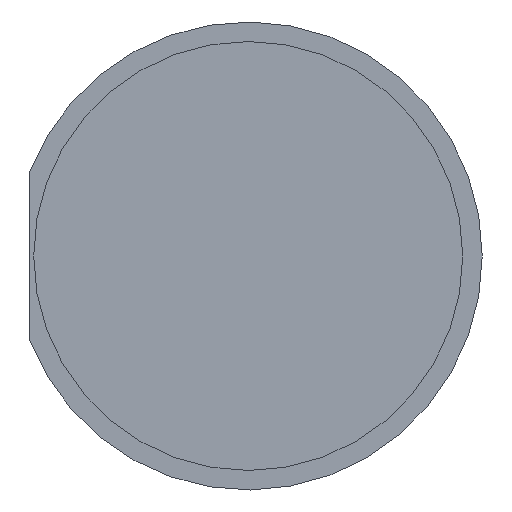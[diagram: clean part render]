
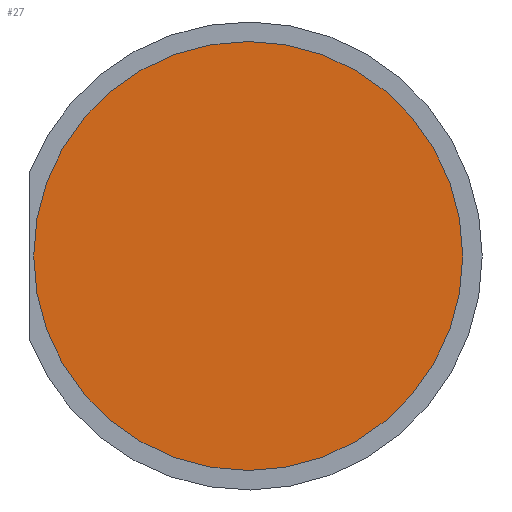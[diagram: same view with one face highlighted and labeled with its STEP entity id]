
A CAD part, front view. The second image highlights one B-rep face of the part: STEP entity #27.
In plain terms, the highlighted planar face has unit normal (0, -1, 0).
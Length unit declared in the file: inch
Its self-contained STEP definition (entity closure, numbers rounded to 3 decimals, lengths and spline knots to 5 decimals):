
#27 = ADVANCED_FACE ( 'NONE', ( #349 ), #515, .F. ) ;
#58 = AXIS2_PLACEMENT_3D ( 'NONE', #537, #553, #538 ) ;
#77 = AXIS2_PLACEMENT_3D ( 'NONE', #612, #640, #633 ) ;
#103 = AXIS2_PLACEMENT_3D ( 'NONE', #677, #676, #669 ) ;
#116 = EDGE_CURVE ( 'NONE', #483, #465, #392, .T. ) ;
#137 = EDGE_CURVE ( 'NONE', #465, #483, #404, .T. ) ;
#192 = ORIENTED_EDGE ( 'NONE', *, *, #116, .F. ) ;
#213 = ORIENTED_EDGE ( 'NONE', *, *, #137, .F. ) ;
#283 = EDGE_LOOP ( 'NONE', ( #192, #213 ) ) ;
#349 = FACE_OUTER_BOUND ( 'NONE', #283, .T. ) ;
#392 = CIRCLE ( 'NONE', #77, 0.6875 ) ;
#404 = CIRCLE ( 'NONE', #103, 0.6875 ) ;
#465 = VERTEX_POINT ( 'NONE', #727 ) ;
#483 = VERTEX_POINT ( 'NONE', #704 ) ;
#515 = PLANE ( 'NONE',  #58 ) ;
#537 = CARTESIAN_POINT ( 'NONE',  ( 0., 0., 0. ) ) ;
#538 = DIRECTION ( 'NONE',  ( -1., 0., 0. ) ) ;
#553 = DIRECTION ( 'NONE',  ( 0., 1., 0. ) ) ;
#612 = CARTESIAN_POINT ( 'NONE',  ( 0., 0., 0. ) ) ;
#633 = DIRECTION ( 'NONE',  ( -1., 0., 0. ) ) ;
#640 = DIRECTION ( 'NONE',  ( 0., 1., 0. ) ) ;
#669 = DIRECTION ( 'NONE',  ( -1., 0., 0. ) ) ;
#676 = DIRECTION ( 'NONE',  ( 0., 1., 0. ) ) ;
#677 = CARTESIAN_POINT ( 'NONE',  ( 0., 0., 0. ) ) ;
#704 = CARTESIAN_POINT ( 'NONE',  ( -0.6875, 0., 0. ) ) ;
#727 = CARTESIAN_POINT ( 'NONE',  ( 0.6875, 0., 0. ) ) ;
